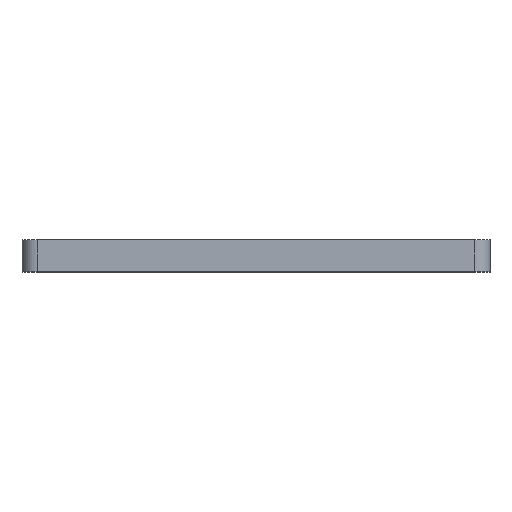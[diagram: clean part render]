
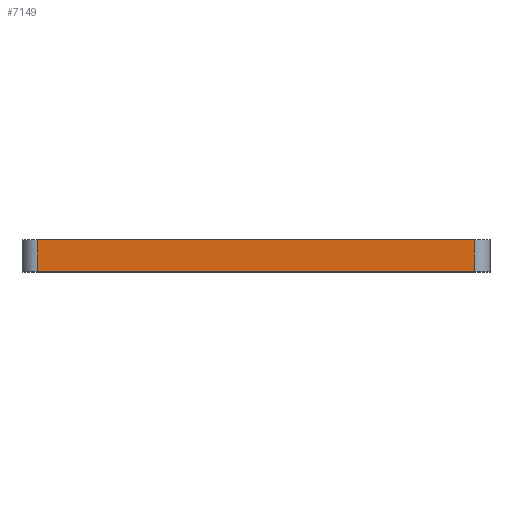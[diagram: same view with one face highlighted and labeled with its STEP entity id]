
A CAD part, top view. The second image highlights one B-rep face of the part: STEP entity #7149.
In plain terms, the highlighted planar face has unit normal (0, 0, 1).
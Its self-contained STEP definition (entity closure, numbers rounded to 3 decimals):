
#463=FACE_OUTER_BOUND('',#847,.T.);
#847=EDGE_LOOP('',(#6099,#6100,#6101,#6102));
#1827=LINE('',#11067,#2799);
#1857=LINE('',#11150,#2829);
#1858=LINE('',#11153,#2830);
#1859=LINE('',#11154,#2831);
#2799=VECTOR('',#9069,10.);
#2829=VECTOR('',#9145,10.);
#2830=VECTOR('',#9148,10.);
#2831=VECTOR('',#9149,10.);
#3475=VERTEX_POINT('',#11064);
#3476=VERTEX_POINT('',#11066);
#3506=VERTEX_POINT('',#11148);
#3507=VERTEX_POINT('',#11152);
#4439=EDGE_CURVE('',#3475,#3476,#1827,.T.);
#4481=EDGE_CURVE('',#3475,#3506,#1857,.T.);
#4482=EDGE_CURVE('',#3507,#3506,#1858,.T.);
#4483=EDGE_CURVE('',#3476,#3507,#1859,.T.);
#6099=ORIENTED_EDGE('',*,*,#4481,.T.);
#6100=ORIENTED_EDGE('',*,*,#4482,.F.);
#6101=ORIENTED_EDGE('',*,*,#4483,.F.);
#6102=ORIENTED_EDGE('',*,*,#4439,.F.);
#6823=PLANE('',#7519);
#7149=ADVANCED_FACE('',(#463),#6823,.T.);
#7519=AXIS2_PLACEMENT_3D('',#11151,#9146,#9147);
#9069=DIRECTION('',(-1.,0.,0.));
#9145=DIRECTION('',(0.,1.,0.));
#9146=DIRECTION('center_axis',(0.,0.,1.));
#9147=DIRECTION('ref_axis',(1.,0.,0.));
#9148=DIRECTION('',(1.,0.,0.));
#9149=DIRECTION('',(0.,1.,0.));
#11064=CARTESIAN_POINT('',(14.,-1.,17.882));
#11066=CARTESIAN_POINT('',(-14.,-1.,17.882));
#11067=CARTESIAN_POINT('',(-14.,-1.,17.882));
#11148=CARTESIAN_POINT('',(14.,1.,17.882));
#11150=CARTESIAN_POINT('',(14.,0.,17.882));
#11151=CARTESIAN_POINT('Origin',(-14.,0.,17.882));
#11152=CARTESIAN_POINT('',(-14.,1.,17.882));
#11153=CARTESIAN_POINT('',(-14.,1.,17.882));
#11154=CARTESIAN_POINT('',(-14.,0.,17.882));
